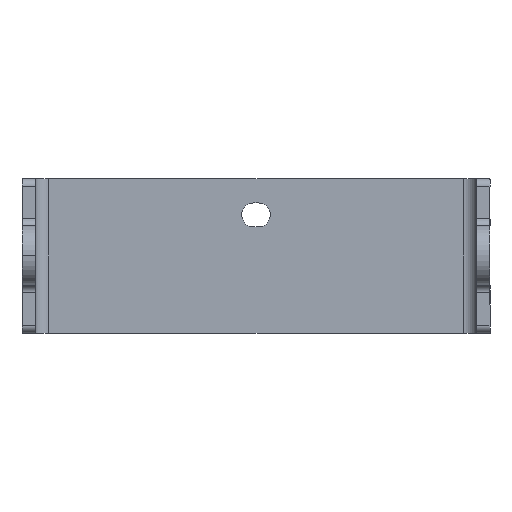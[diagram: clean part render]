
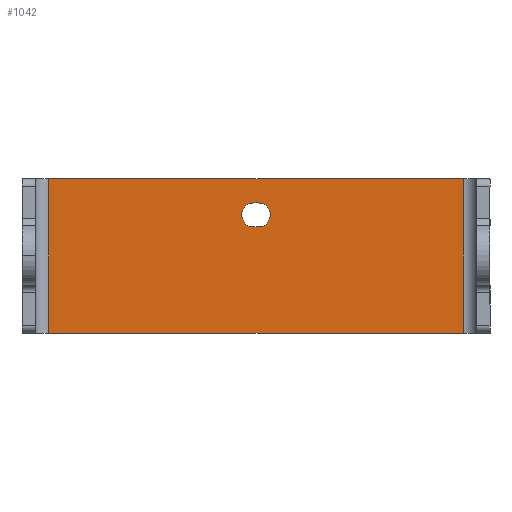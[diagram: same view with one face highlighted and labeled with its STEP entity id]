
A CAD part, left-side view. The second image highlights one B-rep face of the part: STEP entity #1042.
In plain terms, the highlighted planar face has unit normal (-1, 0, 0).
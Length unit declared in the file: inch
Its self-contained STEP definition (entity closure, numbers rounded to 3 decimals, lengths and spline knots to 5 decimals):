
#71=DIRECTION('',(0.,-1.,0.));
#72=VECTOR('',#71,3.28843);
#73=CARTESIAN_POINT('',(4.47551,-0.105,
-0.49787));
#74=LINE('',#73,#72);
#179=DIRECTION('',(0.,0.,-1.));
#180=VECTOR('',#179,1.22047);
#181=CARTESIAN_POINT('',(4.47551,-3.39343,0.7226));
#182=LINE('',#181,#180);
#187=CARTESIAN_POINT('',(4.47551,-1.7689,0.43795));
#188=DIRECTION('',(1.,0.,0.));
#189=DIRECTION('',(0.,0.,1.));
#190=AXIS2_PLACEMENT_3D('',#187,#188,#189);
#192=CARTESIAN_POINT('',(4.47551,-1.72953,0.43795));
#193=DIRECTION('',(-1.,0.,0.));
#194=DIRECTION('',(0.,0.,1.));
#195=AXIS2_PLACEMENT_3D('',#192,#193,#194);
#197=DIRECTION('',(0.,1.,0.));
#198=VECTOR('',#197,0.03937);
#199=CARTESIAN_POINT('',(4.47551,-1.7689,0.34346));
#200=LINE('',#199,#198);
#217=DIRECTION('',(0.,-1.,0.));
#218=VECTOR('',#217,0.03937);
#219=CARTESIAN_POINT('',(4.47551,-1.72953,0.53244));
#220=LINE('',#219,#218);
#269=DIRECTION('',(0.,1.,0.));
#270=VECTOR('',#269,3.28843);
#271=CARTESIAN_POINT('',(4.47551,-3.39343,0.7226));
#272=LINE('',#271,#270);
#273=DIRECTION('',(0.,0.,1.));
#274=VECTOR('',#273,1.22047);
#275=CARTESIAN_POINT('',(4.47551,-0.105,
-0.49787));
#276=LINE('',#275,#274);
#679=CARTESIAN_POINT('',(4.47551,-0.105,
-0.49787));
#680=CARTESIAN_POINT('',(4.47551,-0.105,
0.7226));
#681=VERTEX_POINT('',#679);
#682=VERTEX_POINT('',#680);
#683=CARTESIAN_POINT('',(4.47551,-1.72953,0.53244));
#684=CARTESIAN_POINT('',(4.47551,-1.72953,0.34346));
#685=VERTEX_POINT('',#683);
#686=VERTEX_POINT('',#684);
#759=CARTESIAN_POINT('',(4.47551,-1.7689,0.53244));
#760=CARTESIAN_POINT('',(4.47551,-1.7689,0.34346));
#761=VERTEX_POINT('',#759);
#762=VERTEX_POINT('',#760);
#763=CARTESIAN_POINT('',(4.47551,-3.39343,0.7226));
#764=CARTESIAN_POINT('',(4.47551,-3.39343,
-0.49787));
#765=VERTEX_POINT('',#763);
#766=VERTEX_POINT('',#764);
#1019=CARTESIAN_POINT('',(4.47551,-0.92711,
0.11236));
#1020=DIRECTION('',(1.,0.,0.));
#1021=DIRECTION('',(0.,0.,1.));
#1022=AXIS2_PLACEMENT_3D('',#1019,#1020,#1021);
#1023=PLANE('',#1022);
#1025=ORIENTED_EDGE('',*,*,#1024,.F.);
#1026=ORIENTED_EDGE('',*,*,#1010,.T.);
#1027=ORIENTED_EDGE('',*,*,#857,.F.);
#1029=ORIENTED_EDGE('',*,*,#1028,.T.);
#1030=EDGE_LOOP('',(#1025,#1026,#1027,#1029));
#1031=FACE_OUTER_BOUND('',#1030,.F.);
#1033=ORIENTED_EDGE('',*,*,#1032,.F.);
#1035=ORIENTED_EDGE('',*,*,#1034,.F.);
#1037=ORIENTED_EDGE('',*,*,#1036,.F.);
#1039=ORIENTED_EDGE('',*,*,#1038,.T.);
#1040=EDGE_LOOP('',(#1033,#1035,#1037,#1039));
#1041=FACE_BOUND('',#1040,.F.);
#1042=ADVANCED_FACE('',(#1031,#1041),#1023,.F.);
#191=CIRCLE('',#190,0.09449);
#196=CIRCLE('',#195,0.09449);
#857=EDGE_CURVE('',#681,#766,#74,.T.);
#1010=EDGE_CURVE('',#765,#766,#182,.T.);
#1024=EDGE_CURVE('',#765,#682,#272,.T.);
#1028=EDGE_CURVE('',#681,#682,#276,.T.);
#1032=EDGE_CURVE('',#762,#686,#200,.T.);
#1034=EDGE_CURVE('',#761,#762,#191,.T.);
#1036=EDGE_CURVE('',#685,#761,#220,.T.);
#1038=EDGE_CURVE('',#685,#686,#196,.T.);
